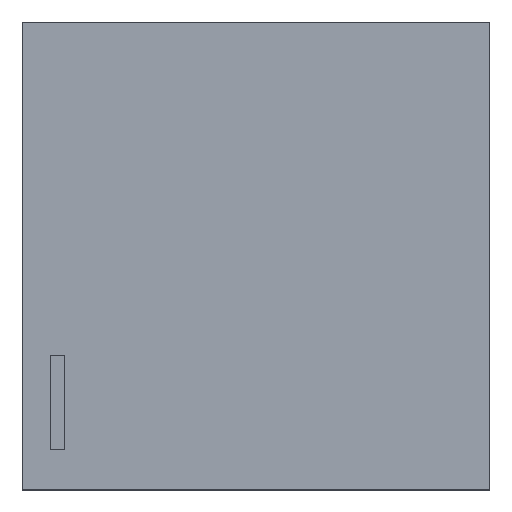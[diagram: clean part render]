
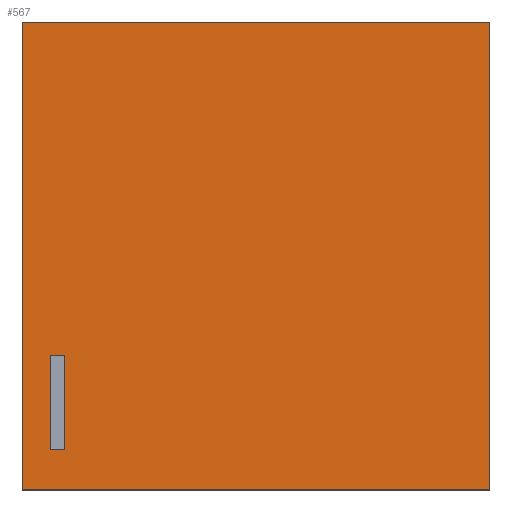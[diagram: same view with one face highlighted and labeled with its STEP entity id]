
A CAD part, top view. The second image highlights one B-rep face of the part: STEP entity #567.
In plain terms, the highlighted planar face has unit normal (0, 0, 1).
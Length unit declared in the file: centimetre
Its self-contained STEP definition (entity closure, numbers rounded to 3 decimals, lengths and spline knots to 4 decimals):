
#49 = ORIENTED_EDGE ( 'NONE', *, *, #1085, .F. ) ;
#68 = EDGE_CURVE ( 'NONE', #731, #264, #1048, .T. ) ;
#87 = DIRECTION ( 'NONE',  ( -1., 0., 0. ) ) ;
#104 = VERTEX_POINT ( 'NONE', #498 ) ;
#140 = CARTESIAN_POINT ( 'NONE',  ( 90.5572, 85.4453, 1000. ) ) ;
#142 = LINE ( 'NONE', #1181, #1153 ) ;
#184 = DIRECTION ( 'NONE',  ( 1., 0., 0. ) ) ;
#229 = ORIENTED_EDGE ( 'NONE', *, *, #771, .T. ) ;
#243 = VECTOR ( 'NONE', #730, 100. ) ;
#256 = CARTESIAN_POINT ( 'NONE',  ( 90.5572, 85.4453, 1000. ) ) ;
#257 = VERTEX_POINT ( 'NONE', #256 ) ;
#264 = VERTEX_POINT ( 'NONE', #1071 ) ;
#266 = DIRECTION ( 'NONE',  ( 0., 1., 0. ) ) ;
#308 = ORIENTED_EDGE ( 'NONE', *, *, #857, .F. ) ;
#311 = ORIENTED_EDGE ( 'NONE', *, *, #68, .T. ) ;
#348 = VERTEX_POINT ( 'NONE', #795 ) ;
#354 = CARTESIAN_POINT ( 'NONE',  ( 0., 1000., 1000. ) ) ;
#398 = EDGE_LOOP ( 'NONE', ( #1258, #800, #229, #311 ) ) ;
#406 = CARTESIAN_POINT ( 'NONE',  ( 0., 0., 1000. ) ) ;
#425 = AXIS2_PLACEMENT_3D ( 'NONE', #1277, #1132, #184 ) ;
#431 = PLANE ( 'NONE',  #425 ) ;
#493 = VERTEX_POINT ( 'NONE', #746 ) ;
#498 = CARTESIAN_POINT ( 'NONE',  ( 1000., 0., 1000. ) ) ;
#560 = EDGE_CURVE ( 'NONE', #493, #104, #615, .T. ) ;
#567 = ADVANCED_FACE ( 'NONE', ( #962, #1385 ), #431, .T. ) ;
#568 = DIRECTION ( 'NONE',  ( 0., -1., 0. ) ) ;
#573 = EDGE_CURVE ( 'NONE', #264, #493, #970, .T. ) ;
#579 = CARTESIAN_POINT ( 'NONE',  ( 60.3889, 287.1851, 1000. ) ) ;
#596 = CARTESIAN_POINT ( 'NONE',  ( 60.3889, 85.4453, 1000. ) ) ;
#601 = VECTOR ( 'NONE', #1247, 100. ) ;
#607 = CARTESIAN_POINT ( 'NONE',  ( 60.3889, 287.1851, 1000. ) ) ;
#615 = LINE ( 'NONE', #406, #243 ) ;
#617 = ORIENTED_EDGE ( 'NONE', *, *, #676, .F. ) ;
#650 = CARTESIAN_POINT ( 'NONE',  ( 60.3889, 85.4453, 1000. ) ) ;
#676 = EDGE_CURVE ( 'NONE', #1290, #257, #1173, .T. ) ;
#710 = EDGE_CURVE ( 'NONE', #768, #1290, #142, .T. ) ;
#730 = DIRECTION ( 'NONE',  ( 1., 0., 0. ) ) ;
#731 = VERTEX_POINT ( 'NONE', #893 ) ;
#746 = CARTESIAN_POINT ( 'NONE',  ( 0., 0., 1000. ) ) ;
#754 = ORIENTED_EDGE ( 'NONE', *, *, #710, .F. ) ;
#768 = VERTEX_POINT ( 'NONE', #579 ) ;
#771 = EDGE_CURVE ( 'NONE', #104, #731, #1311, .T. ) ;
#795 = CARTESIAN_POINT ( 'NONE',  ( 90.5572, 287.1851, 1000. ) ) ;
#800 = ORIENTED_EDGE ( 'NONE', *, *, #560, .T. ) ;
#857 = EDGE_CURVE ( 'NONE', #348, #768, #951, .T. ) ;
#893 = CARTESIAN_POINT ( 'NONE',  ( 1000., 1000., 1000. ) ) ;
#897 = EDGE_LOOP ( 'NONE', ( #754, #308, #49, #617 ) ) ;
#914 = VECTOR ( 'NONE', #1102, 100. ) ;
#951 = LINE ( 'NONE', #607, #601 ) ;
#962 = FACE_BOUND ( 'NONE', #897, .T. ) ;
#970 = LINE ( 'NONE', #354, #1193 ) ;
#983 = DIRECTION ( 'NONE',  ( 0., -1., 0. ) ) ;
#1048 = LINE ( 'NONE', #1126, #1150 ) ;
#1071 = CARTESIAN_POINT ( 'NONE',  ( 0., 1000., 1000. ) ) ;
#1085 = EDGE_CURVE ( 'NONE', #257, #348, #1199, .T. ) ;
#1086 = DIRECTION ( 'NONE',  ( 1., 0., 0. ) ) ;
#1096 = CARTESIAN_POINT ( 'NONE',  ( 1000., 1000., 1000. ) ) ;
#1102 = DIRECTION ( 'NONE',  ( 0., 1., 0. ) ) ;
#1126 = CARTESIAN_POINT ( 'NONE',  ( 0., 1000., 1000. ) ) ;
#1132 = DIRECTION ( 'NONE',  ( 0., 0., 1. ) ) ;
#1150 = VECTOR ( 'NONE', #87, 100. ) ;
#1153 = VECTOR ( 'NONE', #568, 100. ) ;
#1173 = LINE ( 'NONE', #650, #1197 ) ;
#1181 = CARTESIAN_POINT ( 'NONE',  ( 60.3889, 85.4453, 1000. ) ) ;
#1193 = VECTOR ( 'NONE', #983, 100. ) ;
#1197 = VECTOR ( 'NONE', #1086, 100. ) ;
#1199 = LINE ( 'NONE', #140, #1213 ) ;
#1213 = VECTOR ( 'NONE', #266, 100. ) ;
#1247 = DIRECTION ( 'NONE',  ( -1., 0., 0. ) ) ;
#1258 = ORIENTED_EDGE ( 'NONE', *, *, #573, .T. ) ;
#1277 = CARTESIAN_POINT ( 'NONE',  ( 0., 0., 1000. ) ) ;
#1290 = VERTEX_POINT ( 'NONE', #596 ) ;
#1311 = LINE ( 'NONE', #1096, #914 ) ;
#1385 = FACE_OUTER_BOUND ( 'NONE', #398, .T. ) ;
